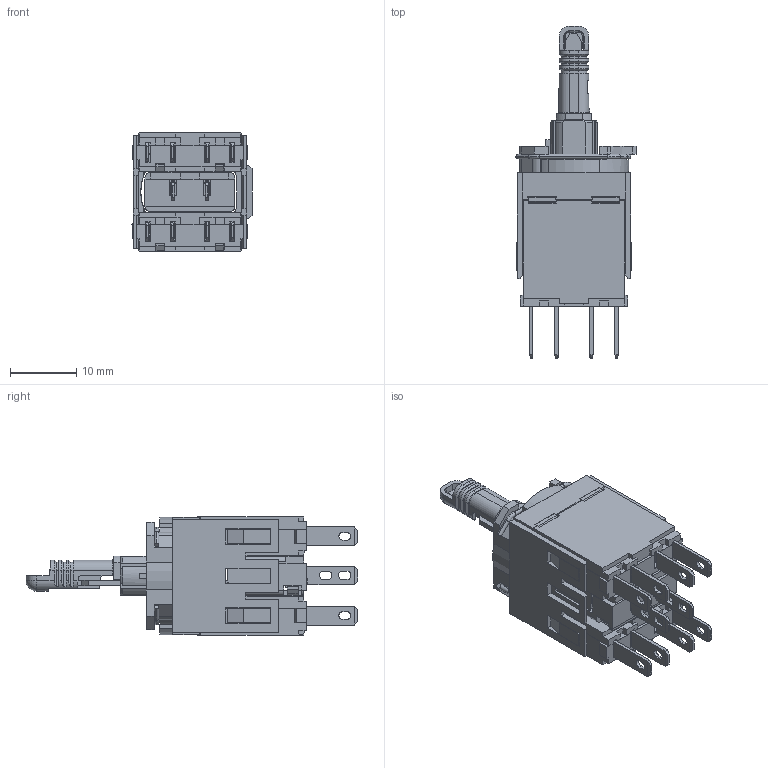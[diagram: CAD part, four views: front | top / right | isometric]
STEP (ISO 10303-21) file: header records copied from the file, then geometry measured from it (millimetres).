
FILE_DESCRIPTION((''),'2;1');
FILE_NAME('1529115LUM_SW0001','2017-03-20T',('SESA46431'),('Schneider-Electric'),'PRO/ENGINEER BY PARAMETRIC TECHNOLOGY CORPORATION, 2015440','PRO/ENGINEER BY PARAMETRIC TECHNOLOGY CORPORATION, 2015440','');
FILE_SCHEMA(('CONFIG_CONTROL_DESIGN'));
Length unit declared in the file: millimetre
Products named in the file (1): 1529115LUM_SW0001
Bounding box: 18.18 x 50.2 x 17.9 mm (x, y, z)
Surface area: 8443.2 mm2 (no closed solid volume)
Topology: 0 solids, 37 shells, 1165 faces, 4212 edges, 2981 vertices
Faces by surface type: plane 891, cylinder 209, cone 33, torus 26, sphere 6
Entity records: 45117 total; most frequent: CARTESIAN_POINT 9459, ORIENTED_EDGE 7122, DIRECTION 7030, EDGE_CURVE 4206, VECTOR 3450, LINE 3450, VERTEX_POINT 2981, AXIS2_PLACEMENT_3D 1790
